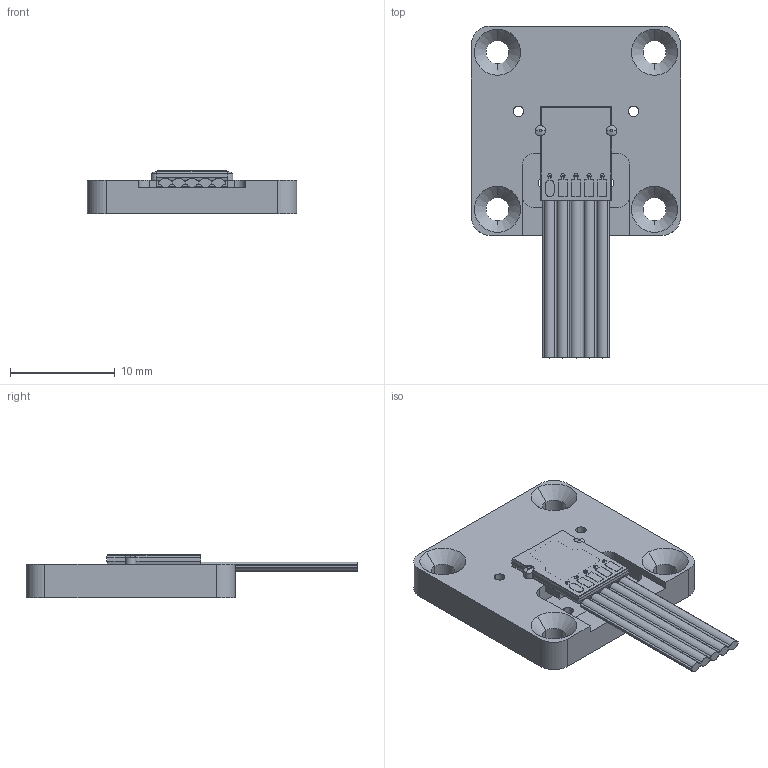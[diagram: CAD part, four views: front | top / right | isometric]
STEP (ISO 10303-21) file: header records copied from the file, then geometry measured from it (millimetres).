
FILE_DESCRIPTION (( 'STEP AP214' ), '1' );
FILE_NAME ('Posic_1102.STEP', '2018-07-18T15:11:01', ( '' ), ( '' ), 'SwSTEP 2.0', 'SolidWorks 2017', '' );
FILE_SCHEMA (( 'AUTOMOTIVE_DESIGN' ));
Length unit declared in the file: millimetre
Products named in the file (9): Posic_11XX_HolderA; Posic_11XX_Encoder_fill; Posic_11XX_HolderA_pins; Posic_11XX_HolderB; Posic_11XX_Encoder; Posic_11XX_Cable; Posic_11XX_Encoder_thin; Posic_11XX_Encoder_thick; Posic_1102
Assembly tree (9 placements, depth 3):
  Posic_1102
    Posic_11XX_Encoder
      Posic_11XX_Encoder_thin
      Posic_11XX_Encoder_thick
      Posic_11XX_Encoder_fill
    Posic_11XX_Cable
    Posic_11XX_HolderB
    Posic_11XX_HolderA
    Posic_11XX_HolderA_pins  x2
Bounding box: 20 x 31.7 x 4.13 mm (x, y, z)
Volume: 1214.3 mm3; surface area: 1835.6 mm2
Topology: 8 solids, 8 shells, 356 faces, 968 edges, 644 vertices
Faces by surface type: cylinder 164, plane 156, bspline 20, cone 8, sphere 8
Entity records: 15767 total; most frequent: CARTESIAN_POINT 4957, ORIENTED_EDGE 1876, DIRECTION 1852, EDGE_CURVE 938, AXIS2_PLACEMENT_3D 673, VERTEX_POINT 624, LINE 506, VECTOR 506
